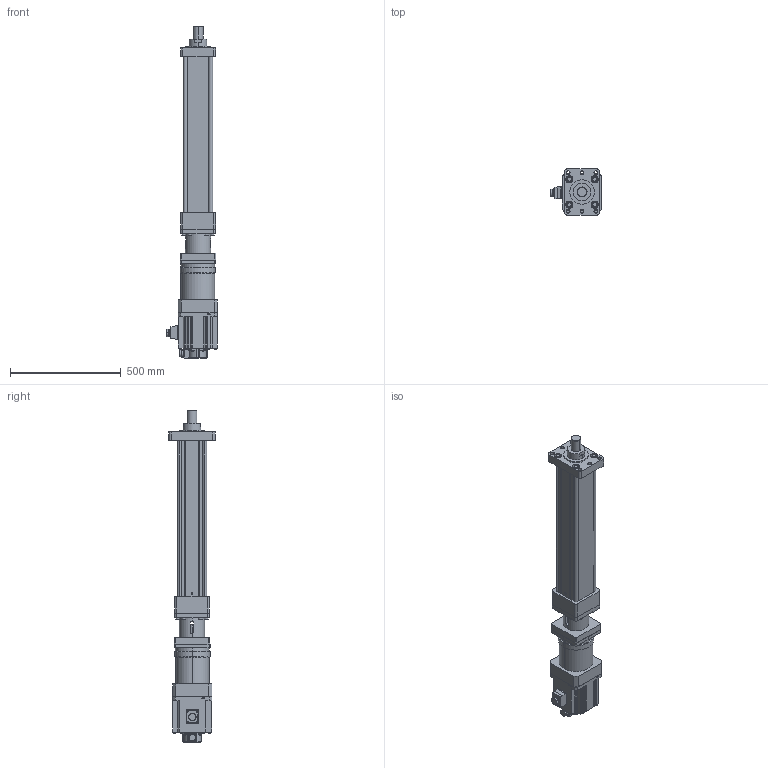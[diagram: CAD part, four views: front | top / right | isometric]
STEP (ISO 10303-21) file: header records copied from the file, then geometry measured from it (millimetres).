
FILE_DESCRIPTION (( 'STEP AP203' ), '1' );
FILE_NAME ('RKF130-D-FA-B3.STEP', '2025-01-23T10:58:56', ( '' ), ( '' ), 'SwSTEP 2.0', 'SolidWorks 2024', '' );
FILE_SCHEMA (( 'CONFIG_CONTROL_DESIGN' ));
Length unit declared in the file: millimetre
Products named in the file (12): 复件 134-前法兰-连接_1^RKF130-D-FA-B3; 复件 134-后法兰_1^RKF130-D-FA-B3; 复件 134-拉杆_1^RKF130-D-FA-B3; 复件 PLF160-L2-35-114-200-M12^复件 RKF130-D-A_RKF130-D-FA-B3; 复件 _MHMF302L1H6 _body^复件 RKF130-D-A_RKF130-D-FA-B3; 复件 M16_1^RKF130-D-FA-B3; 复件 RKF130-D-A^RKF130-D-FA-B3; RKF130-D-FA-B3; 复件 联轴器座^复件 RKF130-D-A_RKF130-D-FA-B3; 复件 134-缸筒_1^RKF130-D-FA-B3; 复件 134-连接接头_1^RKF130-D-FA-B3; 复件 M10-内六角螺栓_KM100016^复件 RKF130-D-A_RKF130-D-FA-B3
Assembly tree (24 placements, depth 3):
  RKF130-D-FA-B3
    复件 134-缸筒_1^RKF130-D-FA-B3
    复件 134-后法兰_1^RKF130-D-FA-B3
    复件 134-拉杆_1^RKF130-D-FA-B3  x4
    复件 134-连接接头_1^RKF130-D-FA-B3
    复件 M16_1^RKF130-D-FA-B3  x4
    复件 134-前法兰-连接_1^RKF130-D-FA-B3
    复件 RKF130-D-A^RKF130-D-FA-B3
      复件 联轴器座^复件 RKF130-D-A_RKF130-D-FA-B3
      复件 M10-内六角螺栓_KM100016^复件 RKF130-D-A_RKF130-D-FA-B3  x8
      复件 PLF160-L2-35-114-200-M12^复件 RKF130-D-A_RKF130-D-FA-B3
      复件 _MHMF302L1H6 _body^复件 RKF130-D-A_RKF130-D-FA-B3
Bounding box: 228.3 x 208 x 1500.5 mm (x, y, z)
Volume: 18438343.7 mm3; surface area: 1915325.7 mm2
Topology: 23 solids, 23 shells, 1414 faces, 3639 edges, 2378 vertices
Faces by surface type: plane 623, cylinder 579, cone 138, torus 45, bspline 25, sphere 4
Entity records: 41752 total; most frequent: CARTESIAN_POINT 9301, DIRECTION 6704, ORIENTED_EDGE 6306, EDGE_CURVE 3153, AXIS2_PLACEMENT_3D 2459, VERTEX_POINT 2070, LINE 1786, VECTOR 1786
